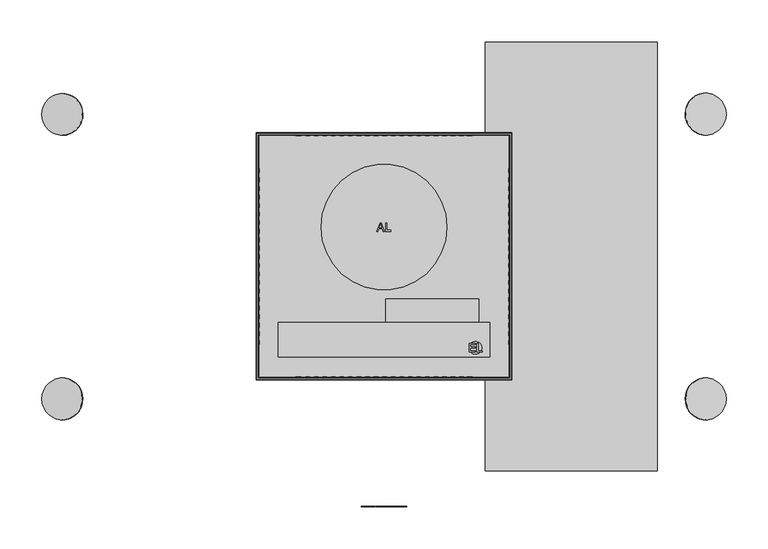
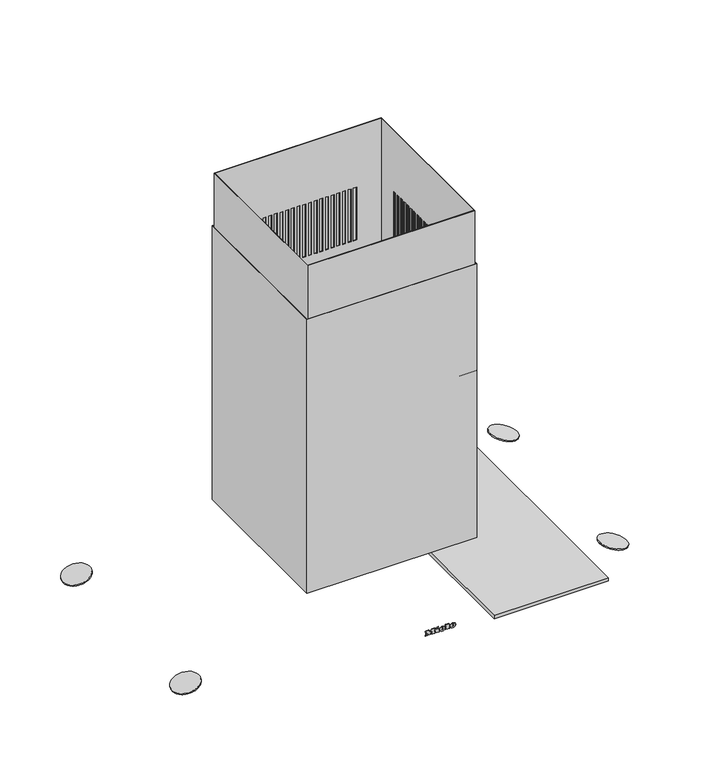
"""IFC4 building model written with IfcOpenShell, lengths in millimetres: proxy geometry, 10863370_RU_DA6698D_BRWS : 28669835_RU_10863370_DA6698D_BRWS."""

from ifc_helpers import new_model, si_unit, point, frame, frame_2d, origin, place, context, project, spatial, polyline, circle_curve, ellipse_curve, trimmed, segment, composite_curve, outline, extrude, faceted_brep, source, transform, mapped, element, save
from ifc_brep_helpers import plane_surface, cylinder_surface, revolved_surface, extruded_surface, advanced_brep


def specialty_equipment_2a2898d7(model_context):
    return source(origin(), model_context, "Body", "SolidModel", [
        advanced_brep(
        [(21.38, -299.0, 54.133), (21.38, -299.0, 55.042), (27.401, -299.0, 55.042), (16.925, -299.0, 55.042), (19.4, -299.0, 52.0), (27.248, -299.0, 54.133), (24.53, -299.0, 54.133), (22.388, -299.0, 53.125), (21.38, -299.0, 56.194), (21.38, -299.0, 57.175), (22.919, -299.0, 57.175), (22.919, -299.0, 56.194), (21.38, -298.0, 54.133), (22.388, -298.0, 53.125), (24.53, -298.0, 54.133), (27.248, -298.0, 54.133), (19.4, -298.0, 52.0), (16.925, -298.0, 55.042), (27.401, -298.0, 55.042), (21.38, -298.0, 55.042), (21.38, -298.0, 56.194), (22.919, -298.0, 56.194), (22.919, -298.0, 57.175), (21.38, -298.0, 57.175)],
        [
            (0, 1),
            (1, 2),
            (2, 3, ellipse_curve(frame((22.163, -299.0, 55.042), z_axis=(0.0, -1.0, 0.0), x_axis=(-1.0, 0.0, 0.0)), 5.238, 4.329)),
            (3, 4, circle_curve(frame((20.4080491, -299.0, 55.348), z_axis=(0.0, -1.0, 0.0), x_axis=(0.0, 0.0, -1.0)), 3.4964649)),
            (4, 5, circle_curve(frame((22.0581428, -299.0, 57.724), z_axis=(0.0, -1.0, 0.0), x_axis=(0.0, 0.0, -1.0)), 6.3110933)),
            (5, 6),
            (6, 7, circle_curve(frame((22.8279412, -299.0, 54.97), z_axis=(0.0, 1.0, 0.0), x_axis=(0.0, 0.0, -1.0)), 1.896727)),
            (7, 0, circle_curve(frame((22.388, -299.0, 54.133), z_axis=(0.0, 1.0, 0.0), x_axis=(0.0, 0.0, -1.0)), 1.008)),
            (8, 9),
            (9, 10, circle_curve(frame((22.1495, -299.0, 57.175), z_axis=(0.0, 1.0, 0.0), x_axis=(0.0, 0.0, -1.0)), 0.7695)),
            (10, 11),
            (11, 8),
            (12, 13, circle_curve(frame((22.388, -298.0, 54.133), z_axis=(0.0, -1.0, 0.0), x_axis=(0.0, 0.0, -1.0)), 1.008)),
            (13, 14, circle_curve(frame((22.8279412, -298.0, 54.97), z_axis=(0.0, -1.0, 0.0), x_axis=(0.0, 0.0, -1.0)), 1.896727)),
            (14, 15),
            (15, 16, circle_curve(frame((22.0581428, -298.0, 57.724), z_axis=(0.0, 1.0, 0.0), x_axis=(0.0, 0.0, -1.0)), 6.3110933)),
            (16, 17, circle_curve(frame((20.4080491, -298.0, 55.348), z_axis=(0.0, 1.0, 0.0), x_axis=(0.0, 0.0, -1.0)), 3.4964649)),
            (17, 18, ellipse_curve(frame((22.163, -298.0, 55.042), z_axis=(0.0, 1.0, 0.0), x_axis=(-1.0, 0.0, 0.0)), 5.238, 4.329)),
            (18, 19),
            (19, 12),
            (20, 21),
            (21, 22),
            (22, 23, circle_curve(frame((22.1495, -298.0, 57.175), z_axis=(0.0, -1.0, 0.0), x_axis=(0.0, 0.0, -1.0)), 0.7695)),
            (23, 20),
            (0, 12),
            (19, 1),
            (18, 2),
            (5, 15),
            (14, 6),
            (17, 3),
            (13, 7),
            (16, 4),
            (8, 20),
            (23, 9),
            (22, 10),
            (21, 11),
        ],
        [
            plane_surface(frame((21.38, -299.0, 55.042), z_axis=(0.0, -1.0, 0.0), x_axis=(0.0, 0.0, 1.0))),
            plane_surface(frame((21.38, -298.0, 55.042), z_axis=(0.0, 1.0, 0.0), x_axis=(0.0, 0.0, -1.0))),
            plane_surface(frame((21.38, -299.0, 54.133), z_axis=(1.0, 0.0, 0.0), x_axis=(0.0, 1.0, 0.0))),
            plane_surface(frame((21.38, -299.0, 55.042), z_axis=(0.0, 0.0, -1.0), x_axis=(0.0, 1.0, 0.0))),
            plane_surface(frame((27.248, -299.0, 54.133), z_axis=(0.0, 0.0, 1.0), x_axis=(0.0, 1.0, 0.0))),
            extruded_surface(trimmed(ellipse_curve(frame((22.163, -297.0, 55.042), z_axis=(0.0, -1.0, 0.0), x_axis=(-1.0, 0.0, 0.0)), 5.238, 4.329), [point((27.401, -297.0, 55.042))], [point((16.925, -297.0, 55.042))], True, "CARTESIAN"), (0.0, -1.0, 0.0), 1.0),
            revolved_surface(polyline([(22.8279412, -298.0, 53.073273), (22.8279412, -299.0, 53.073273)]), (22.8279412, -298.0, 54.97), (0.0, 1.0, 0.0)),
            revolved_surface(polyline([(22.388, -298.0, 53.125), (22.388, -299.0, 53.125)]), (22.388, -298.0, 54.133), (0.0, 1.0, 0.0)),
            cylinder_surface(frame((20.4080491, -298.0, 55.348), z_axis=(0.0, -1.0, 0.0), x_axis=(0.0, 0.0, -1.0)), 3.4964649),
            cylinder_surface(frame((22.0581428, -298.0, 57.724), z_axis=(0.0, -1.0, 0.0), x_axis=(0.0, 0.0, -1.0)), 6.3110933),
            plane_surface(frame((21.38, -299.0, 56.194), z_axis=(1.0, 0.0, 0.0), x_axis=(0.0, 1.0, 0.0))),
            revolved_surface(polyline([(22.1495, -298.0, 56.405499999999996), (22.1495, -299.0, 56.405499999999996)]), (22.1495, -298.0, 57.175), (0.0, 1.0, 0.0)),
            plane_surface(frame((22.919, -299.0, 57.175), z_axis=(-1.0, 0.0, 0.0), x_axis=(0.0, 1.0, 0.0))),
            plane_surface(frame((22.919, -299.0, 56.194), z_axis=(0.0, 0.0, 1.0), x_axis=(0.0, 1.0, 0.0))),
        ],
        [
            (0, [[1, 2, 3, 4, 5, 6, 7, 8], [9, 10, 11, 12]]),
            (1, [[13, 14, 15, 16, 17, 18, 19, 20], [21, 22, 23, 24]]),
            (2, [[-1, 25, -20, 26]]),
            (3, [[-2, -26, -19, 27]]),
            (4, [[-6, 28, -15, 29]]),
            (5, [[-3, -27, -18, 30]]),
            (6, [[-7, -29, -14, 31]]),
            (7, [[-8, -31, -13, -25]]),
            (8, [[-4, -30, -17, 32]]),
            (9, [[-5, -32, -16, -28]]),
            (10, [[-9, 33, -24, 34]]),
            (11, [[-10, -34, -23, 35]]),
            (12, [[-11, -35, -22, 36]]),
            (13, [[-12, -36, -21, -33]]),
        ],
    ),
        advanced_brep(
        [(2.597, -299.0, 54.133), (2.597, -299.0, 55.042), (8.618, -299.0, 55.042), (-1.858, -299.0, 55.042), (0.617, -299.0, 52.0), (8.465, -299.0, 54.133), (5.747, -299.0, 54.133), (3.605, -299.0, 53.125), (2.597, -299.0, 56.194), (2.597, -299.0, 57.175), (4.136, -299.0, 57.175), (4.136, -299.0, 56.194), (2.597, -298.0, 54.133), (3.605, -298.0, 53.125), (5.747, -298.0, 54.133), (8.465, -298.0, 54.133), (0.617, -298.0, 52.0), (-1.858, -298.0, 55.042), (8.618, -298.0, 55.042), (2.597, -298.0, 55.042), (2.597, -298.0, 56.194), (4.136, -298.0, 56.194), (4.136, -298.0, 57.175), (2.597, -298.0, 57.175)],
        [
            (0, 1),
            (1, 2),
            (2, 3, ellipse_curve(frame((3.38, -299.0, 55.042), z_axis=(0.0, -1.0, 0.0), x_axis=(-1.0, 0.0, 0.0)), 5.238, 4.329)),
            (3, 4, circle_curve(frame((1.6250491, -299.0, 55.348), z_axis=(0.0, -1.0, 0.0), x_axis=(0.0, 0.0, -1.0)), 3.4964649)),
            (4, 5, circle_curve(frame((3.2751428, -299.0, 57.724), z_axis=(0.0, -1.0, 0.0), x_axis=(0.0, 0.0, -1.0)), 6.3110933)),
            (5, 6),
            (6, 7, circle_curve(frame((4.0449412, -299.0, 54.97), z_axis=(0.0, 1.0, 0.0), x_axis=(0.0, 0.0, -1.0)), 1.896727)),
            (7, 0, circle_curve(frame((3.605, -299.0, 54.133), z_axis=(0.0, 1.0, 0.0), x_axis=(0.0, 0.0, -1.0)), 1.008)),
            (8, 9),
            (9, 10, circle_curve(frame((3.3665, -299.0, 57.175), z_axis=(0.0, 1.0, 0.0), x_axis=(0.0, 0.0, -1.0)), 0.7695)),
            (10, 11),
            (11, 8),
            (12, 13, circle_curve(frame((3.605, -298.0, 54.133), z_axis=(0.0, -1.0, 0.0), x_axis=(0.0, 0.0, -1.0)), 1.008)),
            (13, 14, circle_curve(frame((4.0449412, -298.0, 54.97), z_axis=(0.0, -1.0, 0.0), x_axis=(0.0, 0.0, -1.0)), 1.896727)),
            (14, 15),
            (15, 16, circle_curve(frame((3.2751428, -298.0, 57.724), z_axis=(0.0, 1.0, 0.0), x_axis=(0.0, 0.0, -1.0)), 6.3110933)),
            (16, 17, circle_curve(frame((1.6250491, -298.0, 55.348), z_axis=(0.0, 1.0, 0.0), x_axis=(0.0, 0.0, -1.0)), 3.4964649)),
            (17, 18, ellipse_curve(frame((3.38, -298.0, 55.042), z_axis=(0.0, 1.0, 0.0), x_axis=(-1.0, 0.0, 0.0)), 5.238, 4.329)),
            (18, 19),
            (19, 12),
            (20, 21),
            (21, 22),
            (22, 23, circle_curve(frame((3.3665, -298.0, 57.175), z_axis=(0.0, -1.0, 0.0), x_axis=(0.0, 0.0, -1.0)), 0.7695)),
            (23, 20),
            (0, 12),
            (19, 1),
            (18, 2),
            (5, 15),
            (14, 6),
            (17, 3),
            (13, 7),
            (16, 4),
            (8, 20),
            (23, 9),
            (22, 10),
            (21, 11),
        ],
        [
            plane_surface(frame((2.597, -299.0, 55.042), z_axis=(0.0, -1.0, 0.0), x_axis=(0.0, 0.0, 1.0))),
            plane_surface(frame((2.597, -298.0, 55.042), z_axis=(0.0, 1.0, 0.0), x_axis=(0.0, 0.0, -1.0))),
            plane_surface(frame((2.597, -299.0, 54.133), z_axis=(1.0, 0.0, 0.0), x_axis=(0.0, 1.0, 0.0))),
            plane_surface(frame((2.597, -299.0, 55.042), z_axis=(0.0, 0.0, -1.0), x_axis=(0.0, 1.0, 0.0))),
            plane_surface(frame((8.465, -299.0, 54.133), z_axis=(0.0, 0.0, 1.0), x_axis=(0.0, 1.0, 0.0))),
            extruded_surface(trimmed(ellipse_curve(frame((3.38, -297.0, 55.042), z_axis=(0.0, -1.0, 0.0), x_axis=(-1.0, 0.0, 0.0)), 5.238, 4.329), [point((8.618, -297.0, 55.042))], [point((-1.858, -297.0, 55.042))], True, "CARTESIAN"), (0.0, -1.0, 0.0), 1.0),
            revolved_surface(polyline([(4.0449412, -298.0, 53.073273), (4.0449412, -299.0, 53.073273)]), (4.0449412, -298.0, 54.97), (0.0, 1.0, 0.0)),
            revolved_surface(polyline([(3.605, -298.0, 53.125), (3.605, -299.0, 53.125)]), (3.605, -298.0, 54.133), (0.0, 1.0, 0.0)),
            cylinder_surface(frame((1.6250491, -298.0, 55.348), z_axis=(0.0, -1.0, 0.0), x_axis=(0.0, 0.0, -1.0)), 3.4964649),
            cylinder_surface(frame((3.2751428, -298.0, 57.724), z_axis=(0.0, -1.0, 0.0), x_axis=(0.0, 0.0, -1.0)), 6.3110933),
            plane_surface(frame((2.597, -299.0, 56.194), z_axis=(1.0, 0.0, 0.0), x_axis=(0.0, 1.0, 0.0))),
            revolved_surface(polyline([(3.3665, -298.0, 56.405499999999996), (3.3665, -299.0, 56.405499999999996)]), (3.3665, -298.0, 57.175), (0.0, 1.0, 0.0)),
            plane_surface(frame((4.136, -299.0, 57.175), z_axis=(-1.0, 0.0, 0.0), x_axis=(0.0, 1.0, 0.0))),
            plane_surface(frame((4.136, -299.0, 56.194), z_axis=(0.0, 0.0, 1.0), x_axis=(0.0, 1.0, 0.0))),
        ],
        [
            (0, [[1, 2, 3, 4, 5, 6, 7, 8], [9, 10, 11, 12]]),
            (1, [[13, 14, 15, 16, 17, 18, 19, 20], [21, 22, 23, 24]]),
            (2, [[-1, 25, -20, 26]]),
            (3, [[-2, -26, -19, 27]]),
            (4, [[-6, 28, -15, 29]]),
            (5, [[-3, -27, -18, 30]]),
            (6, [[-7, -29, -14, 31]]),
            (7, [[-8, -31, -13, -25]]),
            (8, [[-4, -30, -17, 32]]),
            (9, [[-5, -32, -16, -28]]),
            (10, [[-9, 33, -24, 34]]),
            (11, [[-10, -34, -23, 35]]),
            (12, [[-11, -35, -22, 36]]),
            (13, [[-12, -36, -21, -33]]),
        ],
    ),
        extrude(outline(polyline([(60.469, -7.24), (59.011, -6.556), (60.433, -3.505), (61.891, -4.18), (60.469, -7.24)])), frame((0.0, -299.0, 0.0), z_axis=(0.0, 1.0, 0.0), x_axis=(0.0, 0.0, 1.0)), (0.0, 0.0, 1.0), 1.0),
        extrude(outline(polyline([(58.813, -9.463), (57.202, -9.463), (57.202, -8.392), (53.512, -8.392), (53.512, -9.463), (52.0, -9.463), (52.0, -2.362), (53.512, -2.362), (53.512, -3.406), (58.813, -3.406), (58.813, -9.463)])), frame((0.0, -299.0, 0.0), z_axis=(0.0, 1.0, 0.0), x_axis=(0.0, 0.0, 1.0)), (0.0, 0.0, 1.0), 1.0),
        extrude(outline(polyline([(59.533, 9.122), (59.533, 10.202), (53.512, 10.202), (53.512, 9.122), (52.0, 9.122), (52.0, 16.421), (53.512, 16.421), (53.512, 15.314), (61.0, 15.314), (61.0, 9.122), (59.533, 9.122)])), frame((0.0, -299.0, 0.0), z_axis=(0.0, 1.0, 0.0), x_axis=(0.0, 0.0, 1.0)), (0.0, 0.0, 1.0), 1.0),
        extrude(outline(polyline([(59.533, -27.4), (59.533, -26.311), (53.512, -26.311), (53.512, -27.4), (52.0, -27.4), (52.0, -23.44), (53.512, -23.44), (53.512, -24.52), (57.3341247, -24.52), (52.0, -20.497), (57.4402223, -16.456), (53.512, -16.456), (53.512, -17.563), (52.0, -17.563), (52.0, -10.381), (53.512, -10.381), (53.512, -11.524), (59.533, -11.524), (59.533, -10.381), (61.0, -10.381), (61.0, -15.862), (57.625, -18.49), (61.0, -21.127), (61.0, -27.4), (59.533, -27.4)])), frame((0.0, -299.0, 0.0), z_axis=(0.0, 1.0, 0.0), x_axis=(0.0, 0.0, 1.0)), (0.0, 0.0, 1.0), 1.0),
        extrude(outline(polyline([(113.0, -51.0), (113.0, -79.0), (2.0, -79.0), (2.0, -51.0), (113.0, -51.0)])), frame((0.0, 0.0, 416.0), z_axis=(0.0, 0.0, 1.0), x_axis=(1.0, 0.0, 0.0)), (0.0, 0.0, 1.0), 38.0),
        extrude(outline(polyline([(126.0, -79.0), (126.0, -120.0), (-126.0, -120.0), (-126.0, -79.0), (126.0, -79.0)])), frame((0.0, 0.0, 402.0), z_axis=(0.0, 0.0, 1.0), x_axis=(1.0, 0.0, 0.0)), (0.0, 0.0, 1.0), 121.0),
        faceted_brep([(-150.0, -145.0, 705.0), (150.0, -145.0, 705.0), (150.0, 145.0, 705.0), (-150.0, 145.0, 705.0), (-149.0, -144.0, 705.0), (-149.0, 144.0, 705.0), (149.0, 144.0, 705.0), (149.0, -144.0, 705.0), (-150.0, -145.0, 445.0), (-150.0, 145.0, 445.0), (150.0, 145.0, 445.0), (150.0, -145.0, 445.0), (-149.0, -144.0, 445.0), (149.0, -144.0, 445.0), (149.0, 144.0, 445.0), (-149.0, 144.0, 445.0), (-105.0, -145.0, 590.0), (-98.8, -145.0, 590.0), (-98.8, -145.0, 490.0), (-105.0, -145.0, 490.0), (98.8, -145.0, 590.0), (105.0, -145.0, 590.0), (105.0, -145.0, 490.0), (98.8, -145.0, 490.0), (-93.6, -145.0, 590.0), (-88.6, -145.0, 590.0), (-88.6, -145.0, 490.0), (-93.6, -145.0, 490.0), (-83.4, -145.0, 590.0), (-78.4, -145.0, 590.0), (-78.4, -145.0, 490.0), (-83.4, -145.0, 490.0), (-73.2, -145.0, 590.0), (-68.2, -145.0, 590.0), (-68.2, -145.0, 490.0), (-73.2, -145.0, 490.0), (-63.0, -145.0, 590.0), (-58.0, -145.0, 590.0), (-58.0, -145.0, 490.0), (-63.0, -145.0, 490.0), (-52.8, -145.0, 590.0), (-47.8, -145.0, 590.0), (-47.8, -145.0, 490.0), (-52.8, -145.0, 490.0), (-42.6, -145.0, 590.0), (-37.6, -145.0, 590.0), (-37.6, -145.0, 490.0), (-42.6, -145.0, 490.0), (-32.4, -145.0, 590.0), (-27.4, -145.0, 590.0), (-27.4, -145.0, 490.0), (-32.4, -145.0, 490.0), (-22.2, -145.0, 590.0), (-17.2, -145.0, 590.0), (-17.2, -145.0, 490.0), (-22.2, -145.0, 490.0), (-12.0, -145.0, 590.0), (-7.0, -145.0, 590.0), (-7.0, -145.0, 490.0), (-12.0, -145.0, 490.0), (-1.8, -145.0, 590.0), (3.2, -145.0, 590.0), (3.2, -145.0, 490.0), (-1.8, -145.0, 490.0), (8.4, -145.0, 590.0), (13.4, -145.0, 590.0), (13.4, -145.0, 490.0), (8.4, -145.0, 490.0), (18.6, -145.0, 590.0), (23.6, -145.0, 590.0), (23.6, -145.0, 490.0), (18.6, -145.0, 490.0), (28.8, -145.0, 590.0), (33.8, -145.0, 590.0), (33.8, -145.0, 490.0), (28.8, -145.0, 490.0), (39.0, -145.0, 590.0), (44.0, -145.0, 590.0), (44.0, -145.0, 490.0), (39.0, -145.0, 490.0), (49.2, -145.0, 590.0), (54.2, -145.0, 590.0), (54.2, -145.0, 490.0), (49.2, -145.0, 490.0), (59.4, -145.0, 590.0), (64.4, -145.0, 590.0), (64.4, -145.0, 490.0), (59.4, -145.0, 490.0), (69.6, -145.0, 590.0), (74.6, -145.0, 590.0), (74.6, -145.0, 490.0), (69.6, -145.0, 490.0), (79.8, -145.0, 590.0), (84.8, -145.0, 590.0), (84.8, -145.0, 490.0), (79.8, -145.0, 490.0), (90.0, -145.0, 590.0), (95.0, -145.0, 590.0), (95.0, -145.0, 490.0), (90.0, -145.0, 490.0), (150.0, -105.0, 590.0), (150.0, -100.0, 590.0), (150.0, -100.0, 490.0), (150.0, -105.0, 490.0), (150.0, -94.8, 590.0), (150.0, -89.8, 590.0), (150.0, -89.8, 490.0), (150.0, -94.8, 490.0), (150.0, -84.6, 590.0), (150.0, -79.6, 590.0), (150.0, -79.6, 490.0), (150.0, -84.6, 490.0), (150.0, -74.4, 590.0), (150.0, -69.4, 590.0), (150.0, -69.4, 490.0), (150.0, -74.4, 490.0), (150.0, -64.2, 590.0), (150.0, -59.2, 590.0), (150.0, -59.2, 490.0), (150.0, -64.2, 490.0), (150.0, -54.0, 590.0), (150.0, -49.0, 590.0), (150.0, -49.0, 490.0), (150.0, -54.0, 490.0), (150.0, -43.8, 590.0), (150.0, -38.8, 590.0), (150.0, -38.8, 490.0), (150.0, -43.8, 490.0), (150.0, -33.6, 590.0), (150.0, -28.6, 590.0), (150.0, -28.6, 490.0), (150.0, -33.6, 490.0), (150.0, -23.4, 590.0), (150.0, -18.4, 590.0), (150.0, -18.4, 490.0), (150.0, -23.4, 490.0), (150.0, -13.2, 590.0), (150.0, -8.2, 590.0), (150.0, -8.2, 490.0), (150.0, -13.2, 490.0), (150.0, -3.0, 590.0), (150.0, 2.0, 590.0), (150.0, 2.0, 490.0), (150.0, -3.0, 490.0), (150.0, 7.2, 590.0), (150.0, 12.2, 590.0), (150.0, 12.2, 490.0), (150.0, 7.2, 490.0), (150.0, 17.4, 590.0), (150.0, 22.4, 590.0), (150.0, 22.4, 490.0), (150.0, 17.4, 490.0), (150.0, 27.6, 590.0), (150.0, 32.6, 590.0), (150.0, 32.6, 490.0), (150.0, 27.6, 490.0), (150.0, 37.8, 590.0), (150.0, 42.8, 590.0), (150.0, 42.8, 490.0), (150.0, 37.8, 490.0), (150.0, 48.0, 590.0), (150.0, 53.0, 590.0), (150.0, 53.0, 490.0), (150.0, 48.0, 490.0), (150.0, 58.2, 590.0), (150.0, 63.2, 590.0), (150.0, 63.2, 490.0), (150.0, 58.2, 490.0), (150.0, 68.4, 590.0), (150.0, 73.4, 590.0), (150.0, 73.4, 490.0), (150.0, 68.4, 490.0), (150.0, 100.0, 590.0), (150.0, 105.0, 590.0), (150.0, 105.0, 490.0), (150.0, 100.0, 490.0), (150.0, 78.6, 590.0), (150.0, 83.6, 590.0), (150.0, 83.6, 490.0), (150.0, 78.6, 490.0), (150.0, 88.8, 590.0), (150.0, 93.8, 590.0), (150.0, 93.8, 490.0), (150.0, 88.8, 490.0), (-98.8, 145.0, 590.0), (-105.0, 145.0, 590.0), (-105.0, 145.0, 490.0), (-98.8, 145.0, 490.0), (105.0, 145.0, 590.0), (98.8, 145.0, 590.0), (98.8, 145.0, 490.0), (105.0, 145.0, 490.0), (-88.6, 145.0, 590.0), (-93.6, 145.0, 590.0), (-93.6, 145.0, 490.0), (-88.6, 145.0, 490.0), (-78.4, 145.0, 590.0), (-83.4, 145.0, 590.0), (-83.4, 145.0, 490.0), (-78.4, 145.0, 490.0), (-68.2, 145.0, 590.0), (-73.2, 145.0, 590.0), (-73.2, 145.0, 490.0), (-68.2, 145.0, 490.0), (-58.0, 145.0, 590.0), (-63.0, 145.0, 590.0), (-63.0, 145.0, 490.0), (-58.0, 145.0, 490.0), (-47.8, 145.0, 590.0), (-52.8, 145.0, 590.0), (-52.8, 145.0, 490.0), (-47.8, 145.0, 490.0), (-37.6, 145.0, 590.0), (-42.6, 145.0, 590.0), (-42.6, 145.0, 490.0), (-37.6, 145.0, 490.0), (-27.4, 145.0, 590.0), (-32.4, 145.0, 590.0), (-32.4, 145.0, 490.0), (-27.4, 145.0, 490.0), (-17.2, 145.0, 590.0), (-22.2, 145.0, 590.0), (-22.2, 145.0, 490.0), (-17.2, 145.0, 490.0), (-7.0, 145.0, 590.0), (-12.0, 145.0, 590.0), (-12.0, 145.0, 490.0), (-7.0, 145.0, 490.0), (3.2, 145.0, 590.0), (-1.8, 145.0, 590.0), (-1.8, 145.0, 490.0), (3.2, 145.0, 490.0), (13.4, 145.0, 590.0), (8.4, 145.0, 590.0), (8.4, 145.0, 490.0), (13.4, 145.0, 490.0), (23.6, 145.0, 590.0), (18.6, 145.0, 590.0), (18.6, 145.0, 490.0), (23.6, 145.0, 490.0), (33.8, 145.0, 590.0), (28.8, 145.0, 590.0), (28.8, 145.0, 490.0), (33.8, 145.0, 490.0), (44.0, 145.0, 590.0), (39.0, 145.0, 590.0), (39.0, 145.0, 490.0), (44.0, 145.0, 490.0), (54.2, 145.0, 590.0), (49.2, 145.0, 590.0), (49.2, 145.0, 490.0), (54.2, 145.0, 490.0), (64.4, 145.0, 590.0), (59.4, 145.0, 590.0), (59.4, 145.0, 490.0), (64.4, 145.0, 490.0), (74.6, 145.0, 590.0), (69.6, 145.0, 590.0), (69.6, 145.0, 490.0), (74.6, 145.0, 490.0), (84.8, 145.0, 590.0), (79.8, 145.0, 590.0), (79.8, 145.0, 490.0), (84.8, 145.0, 490.0), (95.0, 145.0, 590.0), (90.0, 145.0, 590.0), (90.0, 145.0, 490.0), (95.0, 145.0, 490.0), (-150.0, -100.0, 590.0), (-150.0, -105.0, 590.0), (-150.0, -105.0, 490.0), (-150.0, -100.0, 490.0), (-150.0, -89.8, 590.0), (-150.0, -94.8, 590.0), (-150.0, -94.8, 490.0), (-150.0, -89.8, 490.0), (-150.0, -79.6, 590.0), (-150.0, -84.6, 590.0), (-150.0, -84.6, 490.0), (-150.0, -79.6, 490.0), (-150.0, -69.4, 590.0), (-150.0, -74.4, 590.0), (-150.0, -74.4, 490.0), (-150.0, -69.4, 490.0), (-150.0, -59.2, 590.0), (-150.0, -64.2, 590.0), (-150.0, -64.2, 490.0), (-150.0, -59.2, 490.0), (-150.0, -49.0, 590.0), (-150.0, -54.0, 590.0), (-150.0, -54.0, 490.0), (-150.0, -49.0, 490.0), (-150.0, -38.8, 590.0), (-150.0, -43.8, 590.0), (-150.0, -43.8, 490.0), (-150.0, -38.8, 490.0), (-150.0, -28.6, 590.0), (-150.0, -33.6, 590.0), (-150.0, -33.6, 490.0), (-150.0, -28.6, 490.0), (-150.0, -18.4, 590.0), (-150.0, -23.4, 590.0), (-150.0, -23.4, 490.0), (-150.0, -18.4, 490.0), (-150.0, -8.2, 590.0), (-150.0, -13.2, 590.0), (-150.0, -13.2, 490.0), (-150.0, -8.2, 490.0), (-150.0, 2.0, 590.0), (-150.0, -3.0, 590.0), (-150.0, -3.0, 490.0), (-150.0, 2.0, 490.0), (-150.0, 12.2, 590.0), (-150.0, 7.2, 590.0), (-150.0, 7.2, 490.0), (-150.0, 12.2, 490.0), (-150.0, 22.4, 590.0), (-150.0, 17.4, 590.0), (-150.0, 17.4, 490.0), (-150.0, 22.4, 490.0), (-150.0, 32.6, 590.0), (-150.0, 27.6, 590.0), (-150.0, 27.6, 490.0), (-150.0, 32.6, 490.0), (-150.0, 42.8, 590.0), (-150.0, 37.8, 590.0), (-150.0, 37.8, 490.0), (-150.0, 42.8, 490.0), (-150.0, 53.0, 590.0), (-150.0, 48.0, 590.0), (-150.0, 48.0, 490.0), (-150.0, 53.0, 490.0), (-150.0, 63.2, 590.0), (-150.0, 58.2, 590.0), (-150.0, 58.2, 490.0), (-150.0, 63.2, 490.0), (-150.0, 73.4, 590.0), (-150.0, 68.4, 590.0), (-150.0, 68.4, 490.0), (-150.0, 73.4, 490.0), (-150.0, 105.0, 590.0), (-150.0, 100.0, 590.0), (-150.0, 100.0, 490.0), (-150.0, 105.0, 490.0), (-150.0, 83.6, 590.0), (-150.0, 78.6, 590.0), (-150.0, 78.6, 490.0), (-150.0, 83.6, 490.0), (-150.0, 93.8, 590.0), (-150.0, 88.8, 590.0), (-150.0, 88.8, 490.0), (-150.0, 93.8, 490.0), (-149.0, -105.0, 590.0), (-149.0, -100.0, 590.0), (-149.0, -100.0, 490.0), (-149.0, -105.0, 490.0), (-149.0, -94.8, 590.0), (-149.0, -89.8, 590.0), (-149.0, -89.8, 490.0), (-149.0, -94.8, 490.0), (-149.0, -84.6, 590.0), (-149.0, -79.6, 590.0), (-149.0, -79.6, 490.0), (-149.0, -84.6, 490.0), (-149.0, -74.4, 590.0), (-149.0, -69.4, 590.0), (-149.0, -69.4, 490.0), (-149.0, -74.4, 490.0), (-149.0, -64.2, 590.0), (-149.0, -59.2, 590.0), (-149.0, -59.2, 490.0), (-149.0, -64.2, 490.0), (-149.0, -54.0, 590.0), (-149.0, -49.0, 590.0), (-149.0, -49.0, 490.0), (-149.0, -54.0, 490.0), (-149.0, -43.8, 590.0), (-149.0, -38.8, 590.0), (-149.0, -38.8, 490.0), (-149.0, -43.8, 490.0), (-149.0, -33.6, 590.0), (-149.0, -28.6, 590.0), (-149.0, -28.6, 490.0), (-149.0, -33.6, 490.0), (-149.0, -23.4, 590.0), (-149.0, -18.4, 590.0), (-149.0, -18.4, 490.0), (-149.0, -23.4, 490.0), (-149.0, -13.2, 590.0), (-149.0, -8.2, 590.0), (-149.0, -8.2, 490.0), (-149.0, -13.2, 490.0), (-149.0, -3.0, 590.0), (-149.0, 2.0, 590.0), (-149.0, 2.0, 490.0), (-149.0, -3.0, 490.0), (-149.0, 7.2, 590.0), (-149.0, 12.2, 590.0), (-149.0, 12.2, 490.0), (-149.0, 7.2, 490.0), (-149.0, 17.4, 590.0), (-149.0, 22.4, 590.0), (-149.0, 22.4, 490.0), (-149.0, 17.4, 490.0), (-149.0, 27.6, 590.0), (-149.0, 32.6, 590.0), (-149.0, 32.6, 490.0), (-149.0, 27.6, 490.0), (-149.0, 37.8, 590.0), (-149.0, 42.8, 590.0), (-149.0, 42.8, 490.0), (-149.0, 37.8, 490.0), (-149.0, 48.0, 590.0), (-149.0, 53.0, 590.0), (-149.0, 53.0, 490.0), (-149.0, 48.0, 490.0), (-149.0, 58.2, 590.0), (-149.0, 63.2, 590.0), (-149.0, 63.2, 490.0), (-149.0, 58.2, 490.0), (-149.0, 68.4, 590.0), (-149.0, 73.4, 590.0), (-149.0, 73.4, 490.0), (-149.0, 68.4, 490.0), (-149.0, 100.0, 590.0), (-149.0, 105.0, 590.0), (-149.0, 105.0, 490.0), (-149.0, 100.0, 490.0), (-149.0, 78.6, 590.0), (-149.0, 83.6, 590.0), (-149.0, 83.6, 490.0), (-149.0, 78.6, 490.0), (-149.0, 88.8, 590.0), (-149.0, 93.8, 590.0), (-149.0, 93.8, 490.0), (-149.0, 88.8, 490.0), (-105.0, 144.0, 590.0), (-98.8, 144.0, 590.0), (-98.8, 144.0, 490.0), (-105.0, 144.0, 490.0), (98.8, 144.0, 590.0), (105.0, 144.0, 590.0), (105.0, 144.0, 490.0), (98.8, 144.0, 490.0), (-93.6, 144.0, 590.0), (-88.6, 144.0, 590.0), (-88.6, 144.0, 490.0), (-93.6, 144.0, 490.0), (-83.4, 144.0, 590.0), (-78.4, 144.0, 590.0), (-78.4, 144.0, 490.0), (-83.4, 144.0, 490.0), (-73.2, 144.0, 590.0), (-68.2, 144.0, 590.0), (-68.2, 144.0, 490.0), (-73.2, 144.0, 490.0), (-63.0, 144.0, 590.0), (-58.0, 144.0, 590.0), (-58.0, 144.0, 490.0), (-63.0, 144.0, 490.0), (-52.8, 144.0, 590.0), (-47.8, 144.0, 590.0), (-47.8, 144.0, 490.0), (-52.8, 144.0, 490.0), (-42.6, 144.0, 590.0), (-37.6, 144.0, 590.0), (-37.6, 144.0, 490.0), (-42.6, 144.0, 490.0), (-32.4, 144.0, 590.0), (-27.4, 144.0, 590.0), (-27.4, 144.0, 490.0), (-32.4, 144.0, 490.0), (-22.2, 144.0, 590.0), (-17.2, 144.0, 590.0), (-17.2, 144.0, 490.0), (-22.2, 144.0, 490.0), (-12.0, 144.0, 590.0), (-7.0, 144.0, 590.0), (-7.0, 144.0, 490.0), (-12.0, 144.0, 490.0), (-1.8, 144.0, 590.0), (3.2, 144.0, 590.0), (3.2, 144.0, 490.0), (-1.8, 144.0, 490.0), (8.4, 144.0, 590.0), (13.4, 144.0, 590.0), (13.4, 144.0, 490.0), (8.4, 144.0, 490.0), (18.6, 144.0, 590.0), (23.6, 144.0, 590.0), (23.6, 144.0, 490.0), (18.6, 144.0, 490.0), (28.8, 144.0, 590.0), (33.8, 144.0, 590.0), (33.8, 144.0, 490.0), (28.8, 144.0, 490.0), (39.0, 144.0, 590.0), (44.0, 144.0, 590.0), (44.0, 144.0, 490.0), (39.0, 144.0, 490.0), (49.2, 144.0, 590.0), (54.2, 144.0, 590.0), (54.2, 144.0, 490.0), (49.2, 144.0, 490.0), (59.4, 144.0, 590.0), (64.4, 144.0, 590.0), (64.4, 144.0, 490.0), (59.4, 144.0, 490.0), (69.6, 144.0, 590.0), (74.6, 144.0, 590.0), (74.6, 144.0, 490.0), (69.6, 144.0, 490.0), (79.8, 144.0, 590.0), (84.8, 144.0, 590.0), (84.8, 144.0, 490.0), (79.8, 144.0, 490.0), (90.0, 144.0, 590.0), (95.0, 144.0, 590.0), (95.0, 144.0, 490.0), (90.0, 144.0, 490.0), (149.0, -100.0, 590.0), (149.0, -105.0, 590.0), (149.0, -105.0, 490.0), (149.0, -100.0, 490.0), (149.0, -89.8, 590.0), (149.0, -94.8, 590.0), (149.0, -94.8, 490.0), (149.0, -89.8, 490.0), (149.0, -79.6, 590.0), (149.0, -84.6, 590.0), (149.0, -84.6, 490.0), (149.0, -79.6, 490.0), (149.0, -69.4, 590.0), (149.0, -74.4, 590.0), (149.0, -74.4, 490.0), (149.0, -69.4, 490.0), (149.0, -59.2, 590.0), (149.0, -64.2, 590.0), (149.0, -64.2, 490.0), (149.0, -59.2, 490.0), (149.0, -49.0, 590.0), (149.0, -54.0, 590.0), (149.0, -54.0, 490.0), (149.0, -49.0, 490.0), (149.0, -38.8, 590.0), (149.0, -43.8, 590.0), (149.0, -43.8, 490.0), (149.0, -38.8, 490.0), (149.0, -28.6, 590.0), (149.0, -33.6, 590.0), (149.0, -33.6, 490.0), (149.0, -28.6, 490.0), (149.0, -18.4, 590.0), (149.0, -23.4, 590.0), (149.0, -23.4, 490.0), (149.0, -18.4, 490.0), (149.0, -8.2, 590.0), (149.0, -13.2, 590.0), (149.0, -13.2, 490.0), (149.0, -8.2, 490.0), (149.0, 2.0, 590.0), (149.0, -3.0, 590.0), (149.0, -3.0, 490.0), (149.0, 2.0, 490.0), (149.0, 12.2, 590.0), (149.0, 7.2, 590.0), (149.0, 7.2, 490.0), (149.0, 12.2, 490.0), (149.0, 22.4, 590.0), (149.0, 17.4, 590.0), (149.0, 17.4, 490.0), (149.0, 22.4, 490.0), (149.0, 32.6, 590.0), (149.0, 27.6, 590.0), (149.0, 27.6, 490.0), (149.0, 32.6, 490.0), (149.0, 42.8, 590.0), (149.0, 37.8, 590.0), (149.0, 37.8, 490.0), (149.0, 42.8, 490.0), (149.0, 53.0, 590.0), (149.0, 48.0, 590.0), (149.0, 48.0, 490.0), (149.0, 53.0, 490.0), (149.0, 63.2, 590.0), (149.0, 58.2, 590.0), (149.0, 58.2, 490.0), (149.0, 63.2, 490.0), (149.0, 73.4, 590.0), (149.0, 68.4, 590.0), (149.0, 68.4, 490.0), (149.0, 73.4, 490.0), (149.0, 105.0, 590.0), (149.0, 100.0, 590.0), (149.0, 100.0, 490.0), (149.0, 105.0, 490.0), (149.0, 83.6, 590.0), (149.0, 78.6, 590.0), (149.0, 78.6, 490.0), (149.0, 83.6, 490.0), (149.0, 93.8, 590.0), (149.0, 88.8, 590.0), (149.0, 88.8, 490.0), (149.0, 93.8, 490.0), (-98.8, -144.0, 590.0), (-105.0, -144.0, 590.0), (-105.0, -144.0, 490.0), (-98.8, -144.0, 490.0), (105.0, -144.0, 590.0), (98.8, -144.0, 590.0), (98.8, -144.0, 490.0), (105.0, -144.0, 490.0), (-88.6, -144.0, 590.0), (-93.6, -144.0, 590.0), (-93.6, -144.0, 490.0), (-88.6, -144.0, 490.0), (-78.4, -144.0, 590.0), (-83.4, -144.0, 590.0), (-83.4, -144.0, 490.0), (-78.4, -144.0, 490.0), (-68.2, -144.0, 590.0), (-73.2, -144.0, 590.0), (-73.2, -144.0, 490.0), (-68.2, -144.0, 490.0), (-58.0, -144.0, 590.0), (-63.0, -144.0, 590.0), (-63.0, -144.0, 490.0), (-58.0, -144.0, 490.0), (-47.8, -144.0, 590.0), (-52.8, -144.0, 590.0), (-52.8, -144.0, 490.0), (-47.8, -144.0, 490.0), (-37.6, -144.0, 590.0), (-42.6, -144.0, 590.0), (-42.6, -144.0, 490.0), (-37.6, -144.0, 490.0), (-27.4, -144.0, 590.0), (-32.4, -144.0, 590.0), (-32.4, -144.0, 490.0), (-27.4, -144.0, 490.0), (-17.2, -144.0, 590.0), (-22.2, -144.0, 590.0), (-22.2, -144.0, 490.0), (-17.2, -144.0, 490.0), (-7.0, -144.0, 590.0), (-12.0, -144.0, 590.0), (-12.0, -144.0, 490.0), (-7.0, -144.0, 490.0), (3.2, -144.0, 590.0), (-1.8, -144.0, 590.0), (-1.8, -144.0, 490.0), (3.2, -144.0, 490.0), (13.4, -144.0, 590.0), (8.4, -144.0, 590.0), (8.4, -144.0, 490.0), (13.4, -144.0, 490.0), (23.6, -144.0, 590.0), (18.6, -144.0, 590.0), (18.6, -144.0, 490.0), (23.6, -144.0, 490.0), (33.8, -144.0, 590.0), (28.8, -144.0, 590.0), (28.8, -144.0, 490.0), (33.8, -144.0, 490.0), (44.0, -144.0, 590.0), (39.0, -144.0, 590.0), (39.0, -144.0, 490.0), (44.0, -144.0, 490.0), (54.2, -144.0, 590.0), (49.2, -144.0, 590.0), (49.2, -144.0, 490.0), (54.2, -144.0, 490.0), (64.4, -144.0, 590.0), (59.4, -144.0, 590.0), (59.4, -144.0, 490.0), (64.4, -144.0, 490.0), (74.6, -144.0, 590.0), (69.6, -144.0, 590.0), (69.6, -144.0, 490.0), (74.6, -144.0, 490.0), (84.8, -144.0, 590.0), (79.8, -144.0, 590.0), (79.8, -144.0, 490.0), (84.8, -144.0, 490.0), (95.0, -144.0, 590.0), (90.0, -144.0, 590.0), (90.0, -144.0, 490.0), (95.0, -144.0, 490.0)], [[[0, 1, 2, 3], [4, 5, 6, 7]], [[8, 9, 10, 11], [12, 13, 14, 15]], [[1, 0, 8, 11], [16, 17, 18, 19], [20, 21, 22, 23], [24, 25, 26, 27], [28, 29, 30, 31], [32, 33, 34, 35], [36, 37, 38, 39], [40, 41, 42, 43], [44, 45, 46, 47], [48, 49, 50, 51], [52, 53, 54, 55], [56, 57, 58, 59], [60, 61, 62, 63], [64, 65, 66, 67], [68, 69, 70, 71], [72, 73, 74, 75], [76, 77, 78, 79], [80, 81, 82, 83], [84, 85, 86, 87], [88, 89, 90, 91], [92, 93, 94, 95], [96, 97, 98, 99]], [[2, 1, 11, 10], [100, 101, 102, 103], [104, 105, 106, 107], [108, 109, 110, 111], [112, 113, 114, 115], [116, 117, 118, 119], [120, 121, 122, 123], [124, 125, 126, 127], [128, 129, 130, 131], [132, 133, 134, 135], [136, 137, 138, 139], [140, 141, 142, 143], [144, 145, 146, 147], [148, 149, 150, 151], [152, 153, 154, 155], [156, 157, 158, 159], [160, 161, 162, 163], [164, 165, 166, 167], [168, 169, 170, 171], [172, 173, 174, 175], [176, 177, 178, 179], [180, 181, 182, 183]], [[3, 2, 10, 9], [184, 185, 186, 187], [188, 189, 190, 191], [192, 193, 194, 195], [196, 197, 198, 199], [200, 201, 202, 203], [204, 205, 206, 207], [208, 209, 210, 211], [212, 213, 214, 215], [216, 217, 218, 219], [220, 221, 222, 223], [224, 225, 226, 227], [228, 229, 230, 231], [232, 233, 234, 235], [236, 237, 238, 239], [240, 241, 242, 243], [244, 245, 246, 247], [248, 249, 250, 251], [252, 253, 254, 255], [256, 257, 258, 259], [260, 261, 262, 263], [264, 265, 266, 267]], [[0, 3, 9, 8], [268, 269, 270, 271], [272, 273, 274, 275], [276, 277, 278, 279], [280, 281, 282, 283], [284, 285, 286, 287], [288, 289, 290, 291], [292, 293, 294, 295], [296, 297, 298, 299], [300, 301, 302, 303], [304, 305, 306, 307], [308, 309, 310, 311], [312, 313, 314, 315], [316, 317, 318, 319], [320, 321, 322, 323], [324, 325, 326, 327], [328, 329, 330, 331], [332, 333, 334, 335], [336, 337, 338, 339], [340, 341, 342, 343], [344, 345, 346, 347], [348, 349, 350, 351]], [[5, 4, 12, 15], [352, 353, 354, 355], [356, 357, 358, 359], [360, 361, 362, 363], [364, 365, 366, 367], [368, 369, 370, 371], [372, 373, 374, 375], [376, 377, 378, 379], [380, 381, 382, 383], [384, 385, 386, 387], [388, 389, 390, 391], [392, 393, 394, 395], [396, 397, 398, 399], [400, 401, 402, 403], [404, 405, 406, 407], [408, 409, 410, 411], [412, 413, 414, 415], [416, 417, 418, 419], [420, 421, 422, 423], [424, 425, 426, 427], [428, 429, 430, 431], [432, 433, 434, 435]], [[6, 5, 15, 14], [436, 437, 438, 439], [440, 441, 442, 443], [444, 445, 446, 447], [448, 449, 450, 451], [452, 453, 454, 455], [456, 457, 458, 459], [460, 461, 462, 463], [464, 465, 466, 467], [468, 469, 470, 471], [472, 473, 474, 475], [476, 477, 478, 479], [480, 481, 482, 483], [484, 485, 486, 487], [488, 489, 490, 491], [492, 493, 494, 495], [496, 497, 498, 499], [500, 501, 502, 503], [504, 505, 506, 507], [508, 509, 510, 511], [512, 513, 514, 515], [516, 517, 518, 519]], [[7, 6, 14, 13], [520, 521, 522, 523], [524, 525, 526, 527], [528, 529, 530, 531], [532, 533, 534, 535], [536, 537, 538, 539], [540, 541, 542, 543], [544, 545, 546, 547], [548, 549, 550, 551], [552, 553, 554, 555], [556, 557, 558, 559], [560, 561, 562, 563], [564, 565, 566, 567], [568, 569, 570, 571], [572, 573, 574, 575], [576, 577, 578, 579], [580, 581, 582, 583], [584, 585, 586, 587], [588, 589, 590, 591], [592, 593, 594, 595], [596, 597, 598, 599], [600, 601, 602, 603]], [[4, 7, 13, 12], [604, 605, 606, 607], [608, 609, 610, 611], [612, 613, 614, 615], [616, 617, 618, 619], [620, 621, 622, 623], [624, 625, 626, 627], [628, 629, 630, 631], [632, 633, 634, 635], [636, 637, 638, 639], [640, 641, 642, 643], [644, 645, 646, 647], [648, 649, 650, 651], [652, 653, 654, 655], [656, 657, 658, 659], [660, 661, 662, 663], [664, 665, 666, 667], [668, 669, 670, 671], [672, 673, 674, 675], [676, 677, 678, 679], [680, 681, 682, 683], [684, 685, 686, 687]], [[184, 437, 436, 185]], [[604, 17, 16, 605]], [[185, 436, 439, 186]], [[605, 16, 19, 606]], [[186, 439, 438, 187]], [[606, 19, 18, 607]], [[437, 184, 187, 438]], [[17, 604, 607, 18]], [[188, 441, 440, 189]], [[608, 21, 20, 609]], [[189, 440, 443, 190]], [[609, 20, 23, 610]], [[190, 443, 442, 191]], [[610, 23, 22, 611]], [[441, 188, 191, 442]], [[21, 608, 611, 22]], [[192, 445, 444, 193]], [[612, 25, 24, 613]], [[193, 444, 447, 194]], [[613, 24, 27, 614]], [[194, 447, 446, 195]], [[614, 27, 26, 615]], [[445, 192, 195, 446]], [[25, 612, 615, 26]], [[196, 449, 448, 197]], [[616, 29, 28, 617]], [[197, 448, 451, 198]], [[617, 28, 31, 618]], [[198, 451, 450, 199]], [[618, 31, 30, 619]], [[449, 196, 199, 450]], [[29, 616, 619, 30]], [[200, 453, 452, 201]], [[620, 33, 32, 621]], [[201, 452, 455, 202]], [[621, 32, 35, 622]], [[202, 455, 454, 203]], [[622, 35, 34, 623]], [[453, 200, 203, 454]], [[33, 620, 623, 34]], [[204, 457, 456, 205]], [[624, 37, 36, 625]], [[205, 456, 459, 206]], [[625, 36, 39, 626]], [[206, 459, 458, 207]], [[626, 39, 38, 627]], [[457, 204, 207, 458]], [[37, 624, 627, 38]], [[208, 461, 460, 209]], [[628, 41, 40, 629]], [[209, 460, 463, 210]], [[629, 40, 43, 630]], [[210, 463, 462, 211]], [[630, 43, 42, 631]], [[461, 208, 211, 462]], [[41, 628, 631, 42]], [[212, 465, 464, 213]], [[632, 45, 44, 633]], [[213, 464, 467, 214]], [[633, 44, 47, 634]], [[214, 467, 466, 215]], [[634, 47, 46, 635]], [[465, 212, 215, 466]], [[45, 632, 635, 46]], [[216, 469, 468, 217]], [[636, 49, 48, 637]], [[217, 468, 471, 218]], [[637, 48, 51, 638]], [[218, 471, 470, 219]], [[638, 51, 50, 639]], [[469, 216, 219, 470]], [[49, 636, 639, 50]], [[220, 473, 472, 221]], [[640, 53, 52, 641]], [[221, 472, 475, 222]], [[641, 52, 55, 642]], [[222, 475, 474, 223]], [[642, 55, 54, 643]], [[473, 220, 223, 474]], [[53, 640, 643, 54]], [[224, 477, 476, 225]], [[644, 57, 56, 645]], [[225, 476, 479, 226]], [[645, 56, 59, 646]], [[226, 479, 478, 227]], [[646, 59, 58, 647]], [[477, 224, 227, 478]], [[57, 644, 647, 58]], [[228, 481, 480, 229]], [[648, 61, 60, 649]], [[229, 480, 483, 230]], [[649, 60, 63, 650]], [[230, 483, 482, 231]], [[650, 63, 62, 651]], [[481, 228, 231, 482]], [[61, 648, 651, 62]], [[232, 485, 484, 233]], [[652, 65, 64, 653]], [[233, 484, 487, 234]], [[653, 64, 67, 654]], [[234, 487, 486, 235]], [[654, 67, 66, 655]], [[485, 232, 235, 486]], [[65, 652, 655, 66]], [[236, 489, 488, 237]], [[656, 69, 68, 657]], [[237, 488, 491, 238]], [[657, 68, 71, 658]], [[238, 491, 490, 239]], [[658, 71, 70, 659]], [[489, 236, 239, 490]], [[69, 656, 659, 70]], [[240, 493, 492, 241]], [[660, 73, 72, 661]], [[241, 492, 495, 242]], [[661, 72, 75, 662]], [[242, 495, 494, 243]], [[662, 75, 74, 663]], [[493, 240, 243, 494]], [[73, 660, 663, 74]], [[244, 497, 496, 245]], [[664, 77, 76, 665]], [[245, 496, 499, 246]], [[665, 76, 79, 666]], [[246, 499, 498, 247]], [[666, 79, 78, 667]], [[497, 244, 247, 498]], [[77, 664, 667, 78]], [[248, 501, 500, 249]], [[668, 81, 80, 669]], [[249, 500, 503, 250]], [[669, 80, 83, 670]], [[250, 503, 502, 251]], [[670, 83, 82, 671]], [[501, 248, 251, 502]], [[81, 668, 671, 82]], [[252, 505, 504, 253]], [[672, 85, 84, 673]], [[253, 504, 507, 254]], [[673, 84, 87, 674]], [[254, 507, 506, 255]], [[674, 87, 86, 675]], [[505, 252, 255, 506]], [[85, 672, 675, 86]], [[256, 509, 508, 257]], [[676, 89, 88, 677]], [[257, 508, 511, 258]], [[677, 88, 91, 678]], [[258, 511, 510, 259]], [[678, 91, 90, 679]], [[509, 256, 259, 510]], [[89, 676, 679, 90]], [[260, 513, 512, 261]], [[680, 93, 92, 681]], [[261, 512, 515, 262]], [[681, 92, 95, 682]], [[262, 515, 514, 263]], [[682, 95, 94, 683]], [[513, 260, 263, 514]], [[93, 680, 683, 94]], [[268, 353, 352, 269]], [[520, 101, 100, 521]], [[269, 352, 355, 270]], [[521, 100, 103, 522]], [[270, 355, 354, 271]], [[522, 103, 102, 523]], [[353, 268, 271, 354]], [[101, 520, 523, 102]], [[272, 357, 356, 273]], [[524, 105, 104, 525]], [[273, 356, 359, 274]], [[525, 104, 107, 526]], [[274, 359, 358, 275]], [[526, 107, 106, 527]], [[357, 272, 275, 358]], [[105, 524, 527, 106]], [[276, 361, 360, 277]], [[528, 109, 108, 529]], [[277, 360, 363, 278]], [[529, 108, 111, 530]], [[278, 363, 362, 279]], [[530, 111, 110, 531]], [[361, 276, 279, 362]], [[109, 528, 531, 110]], [[280, 365, 364, 281]], [[532, 113, 112, 533]], [[281, 364, 367, 282]], [[533, 112, 115, 534]], [[282, 367, 366, 283]], [[534, 115, 114, 535]], [[365, 280, 283, 366]], [[113, 532, 535, 114]], [[284, 369, 368, 285]], [[536, 117, 116, 537]], [[285, 368, 371, 286]], [[537, 116, 119, 538]], [[286, 371, 370, 287]], [[538, 119, 118, 539]], [[369, 284, 287, 370]], [[117, 536, 539, 118]], [[288, 373, 372, 289]], [[540, 121, 120, 541]], [[289, 372, 375, 290]], [[541, 120, 123, 542]], [[290, 375, 374, 291]], [[542, 123, 122, 543]], [[373, 288, 291, 374]], [[121, 540, 543, 122]], [[292, 377, 376, 293]], [[544, 125, 124, 545]], [[293, 376, 379, 294]], [[545, 124, 127, 546]], [[294, 379, 378, 295]], [[546, 127, 126, 547]], [[377, 292, 295, 378]], [[125, 544, 547, 126]], [[296, 381, 380, 297]], [[548, 129, 128, 549]], [[297, 380, 383, 298]], [[549, 128, 131, 550]], [[298, 383, 382, 299]], [[550, 131, 130, 551]], [[381, 296, 299, 382]], [[129, 548, 551, 130]], [[300, 385, 384, 301]], [[552, 133, 132, 553]], [[301, 384, 387, 302]], [[553, 132, 135, 554]], [[302, 387, 386, 303]], [[554, 135, 134, 555]], [[385, 300, 303, 386]], [[133, 552, 555, 134]], [[304, 389, 388, 305]], [[556, 137, 136, 557]], [[305, 388, 391, 306]], [[557, 136, 139, 558]], [[306, 391, 390, 307]], [[558, 139, 138, 559]], [[389, 304, 307, 390]], [[137, 556, 559, 138]], [[308, 393, 392, 309]], [[560, 141, 140, 561]], [[309, 392, 395, 310]], [[561, 140, 143, 562]], [[310, 395, 394, 311]], [[562, 143, 142, 563]], [[393, 308, 311, 394]], [[141, 560, 563, 142]], [[312, 397, 396, 313]], [[564, 145, 144, 565]], [[313, 396, 399, 314]], [[565, 144, 147, 566]], [[314, 399, 398, 315]], [[566, 147, 146, 567]], [[397, 312, 315, 398]], [[145, 564, 567, 146]], [[316, 401, 400, 317]], [[568, 149, 148, 569]], [[317, 400, 403, 318]], [[569, 148, 151, 570]], [[318, 403, 402, 319]], [[570, 151, 150, 571]], [[401, 316, 319, 402]], [[149, 568, 571, 150]], [[320, 405, 404, 321]], [[572, 153, 152, 573]], [[321, 404, 407, 322]], [[573, 152, 155, 574]], [[322, 407, 406, 323]], [[574, 155, 154, 575]], [[405, 320, 323, 406]], [[153, 572, 575, 154]], [[324, 409, 408, 325]], [[576, 157, 156, 577]], [[325, 408, 411, 326]], [[577, 156, 159, 578]], [[326, 411, 410, 327]], [[578, 159, 158, 579]], [[409, 324, 327, 410]], [[157, 576, 579, 158]], [[328, 413, 412, 329]], [[580, 161, 160, 581]], [[329, 412, 415, 330]], [[581, 160, 163, 582]], [[330, 415, 414, 331]], [[582, 163, 162, 583]], [[413, 328, 331, 414]], [[161, 580, 583, 162]], [[332, 417, 416, 333]], [[584, 165, 164, 585]], [[333, 416, 419, 334]], [[585, 164, 167, 586]], [[334, 419, 418, 335]], [[586, 167, 166, 587]], [[417, 332, 335, 418]], [[165, 584, 587, 166]], [[336, 421, 420, 337]], [[588, 169, 168, 589]], [[337, 420, 423, 338]], [[589, 168, 171, 590]], [[338, 423, 422, 339]], [[590, 171, 170, 591]], [[421, 336, 339, 422]], [[169, 588, 591, 170]], [[340, 425, 424, 341]], [[592, 173, 172, 593]], [[341, 424, 427, 342]], [[593, 172, 175, 594]], [[342, 427, 426, 343]], [[594, 175, 174, 595]], [[425, 340, 343, 426]], [[173, 592, 595, 174]], [[344, 429, 428, 345]], [[596, 177, 176, 597]], [[345, 428, 431, 346]], [[597, 176, 179, 598]], [[346, 431, 430, 347]], [[598, 179, 178, 599]], [[429, 344, 347, 430]], [[177, 596, 599, 178]], [[264, 517, 516, 265]], [[684, 97, 96, 685]], [[265, 516, 519, 266]], [[685, 96, 99, 686]], [[266, 519, 518, 267]], [[686, 99, 98, 687]], [[517, 264, 267, 518]], [[97, 684, 687, 98]], [[348, 433, 432, 349]], [[600, 181, 180, 601]], [[349, 432, 435, 350]], [[601, 180, 183, 602]], [[350, 435, 434, 351]], [[602, 183, 182, 603]], [[433, 348, 351, 434]], [[181, 600, 603, 182]]]),
        extrude(outline(polyline([(108.8399725, -103.9570894), (108.8399725, -105.2139001), (102.8756031, -105.2139001), (102.8756031, -108.1897758), (108.5284584, -108.1897758), (108.5284584, -109.4487425), (102.8756031, -109.4487425), (102.8756031, -112.7435075), (109.0, -112.7435075), (109.0, -114.0), (101.6220766, -114.0), (101.6220766, -103.9570894), (108.8399725, -103.9570894)])), frame((0.0, 0.0, 553.0), z_axis=(0.0, 0.0, 1.0), x_axis=(1.0, 0.0, 0.0)), (0.0, 0.0, 1.0), 1.0),
        extrude(outline(polyline([(110.8791391, -114.0103461), (110.8791391, -103.9424405), (112.1632461, -103.9424405), (112.1632461, -112.7355319), (117.1632461, -112.7355319), (117.1632461, -114.0103461), (110.8791391, -114.0103461)])), frame((0.0, 0.0, 553.0), z_axis=(0.0, 0.0, 1.0), x_axis=(1.0, 0.0, 0.0)), (0.0, 0.0, 1.0), 1.0),
        extrude(outline(composite_curve([segment(trimmed(circle_curve(frame_2d((109.0, -109.0)), 7.5), [point((116.5, -109.0))], [point((101.5, -109.0))], False, "CARTESIAN"), True, "CONTINUOUS"), segment(trimmed(circle_curve(frame_2d((109.0, -109.0)), 7.5), [point((101.5, -109.0))], [point((116.5, -109.0))], False, "CARTESIAN"), True, "CONTINUOUS")], self_intersect=False)), frame((0.0, 0.0, 523.0), z_axis=(0.0, 0.0, 1.0), x_axis=(1.0, 0.0, 0.0)), (0.0, 0.0, 1.0), 30.0),
        extrude(outline(polyline([(-4.5350997, 40.0489049), (-3.4700407, 40.0489049), (0.5410213, 29.9992156), (-0.7850399, 29.9992156), (-1.9280588, 33.1396343), (-6.0802371, 33.1396343), (-7.2257854, 29.9922662), (-8.5532107, 29.9922662), (-4.5350997, 40.0489049)]), holes=[polyline([(-5.6084834, 34.3992974), (-2.4077282, 34.3992974), (-4.0032488, 38.8096432), (-5.6084834, 34.3992974)])]), frame((0.0, 0.0, 432.0), z_axis=(0.0, 0.0, 1.0), x_axis=(1.0, 0.0, 0.0)), (0.0, 0.0, 1.0), 1.0),
        extrude(outline(polyline([(1.8797901, 29.9945337), (1.8797901, 40.048168), (3.1713586, 40.048168), (3.1713586, 31.2540464), (8.1713586, 31.2540464), (8.1713586, 29.9945337), (1.8797901, 29.9945337)])), frame((0.0, 0.0, 432.0), z_axis=(0.0, 0.0, 1.0), x_axis=(1.0, 0.0, 0.0)), (0.0, 0.0, 1.0), 1.0),
        extrude(outline(composite_curve([segment(trimmed(circle_curve(frame_2d((0.0, 35.0)), 75.0), [point((75.0, 35.0))], [point((-75.0, 35.0))], False, "CARTESIAN"), True, "CONTINUOUS"), segment(trimmed(circle_curve(frame_2d((0.0, 35.0)), 75.0), [point((-75.0, 35.0))], [point((75.0, 35.0))], False, "CARTESIAN"), True, "CONTINUOUS")], self_intersect=False)), frame((0.0, 0.0, 402.0), z_axis=(0.0, 0.0, 1.0), x_axis=(1.0, 0.0, 0.0)), (0.0, 0.0, 1.0), 30.0),
        extrude(outline(polyline([(151.5, 146.5), (151.5, -146.5), (-151.5, -146.5), (-151.5, 146.5), (151.5, 146.5)])), frame((0.0, 0.0, 401.0), z_axis=(0.0, 0.0, 1.0), x_axis=(1.0, 0.0, 0.0)), (0.0, 0.0, 1.0), 1.0),
        extrude(outline(polyline([(152.5, 147.5), (152.5, -147.5), (-152.5, -147.5), (-152.5, 147.5), (152.5, 147.5)]), holes=[polyline([(151.5, 146.5), (-151.5, 146.5), (-151.5, -146.5), (151.5, -146.5), (151.5, 146.5)])]), frame((0.0, 0.0, 85.0), z_axis=(0.0, 0.0, 1.0), x_axis=(1.0, 0.0, 0.0)), (0.0, 0.0, 1.0), 520.0),
        extrude(outline(composite_curve([segment(trimmed(circle_curve(frame_2d((0.0, -25.0)), 25.0), [point((0.0, -50.0))], [point((0.0, 0.0))], False, "CARTESIAN"), True, "CONTINUOUS"), segment(trimmed(circle_curve(frame_2d((0.0, -25.0)), 25.0), [point((0.0, 0.0))], [point((0.0, -50.0))], False, "CARTESIAN"), True, "CONTINUOUS")], self_intersect=False)), frame((-359.0311447, 169.6006862, 15.2198323), z_axis=(-0.2588190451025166, 0.0, 0.9659258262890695), x_axis=(0.0, -1.0, 0.0)), (0.0, 0.0, 1.0), 2.0),
        extrude(outline(composite_curve([segment(trimmed(circle_curve(frame_2d((0.0, -25.0)), 25.0), [point((0.0, -50.0))], [point((0.0, 0.0))], False, "CARTESIAN"), True, "CONTINUOUS"), segment(trimmed(circle_curve(frame_2d((0.0, -25.0)), 25.0), [point((0.0, 0.0))], [point((0.0, -50.0))], False, "CARTESIAN"), True, "CONTINUOUS")], self_intersect=False)), frame((359.0305951, 170.0, 15.2199795), z_axis=(0.25881904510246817, 0.0, 0.9659258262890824), x_axis=(0.0, 1.0, 0.0)), (0.0, 0.0, 1.0), 2.0),
        extrude(outline(composite_curve([segment(trimmed(circle_curve(frame_2d((0.0, -24.9999999)), 25.0), [point((0.0, -50.0))], [point((0.0, 0.0))], False, "CARTESIAN"), True, "CONTINUOUS"), segment(trimmed(circle_curve(frame_2d((0.0, -24.9999999)), 25.0), [point((0.0, 0.0))], [point((0.0, -50.0))], False, "CARTESIAN"), True, "CONTINUOUS")], self_intersect=False)), frame((359.067388, -170.0, 15.2101209), z_axis=(0.25881904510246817, 0.0, 0.9659258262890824), x_axis=(0.0, 1.0, 0.0)), (0.0, 0.0, 1.0), 2.0),
        extrude(outline(composite_curve([segment(trimmed(circle_curve(frame_2d((0.0, -24.9999999)), 25.0), [point((0.0, -50.0))], [point((0.0, 0.0))], False, "CARTESIAN"), True, "CONTINUOUS"), segment(trimmed(circle_curve(frame_2d((0.0, -24.9999999)), 25.0), [point((0.0, 0.0))], [point((0.0, -50.0))], False, "CARTESIAN"), True, "CONTINUOUS")], self_intersect=False)), frame((-359.0673171, -170.0, 15.2101399), z_axis=(-0.2588190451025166, 0.0, 0.9659258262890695), x_axis=(0.0, -1.0, 0.0)), (0.0, 0.0, 1.0), 2.0),
        extrude(outline(polyline([(326.0, 256.0), (326.0, -256.0), (120.6666667, -256.0), (120.6666667, 256.0), (326.0, 256.0)])), frame((0.0, 0.0, 7.5), z_axis=(0.0, 0.0, 1.0), x_axis=(1.0, 0.0, 0.0)), (0.0, 0.0, 1.0), 6.0),
    ])


if __name__ == "__main__":
    model = new_model("IFC4")
    model_context = context("Model", 3, world=origin())
    ifc_project = project(units=[si_unit("LENGTHUNIT", "METRE", prefix="MILLI")], contexts=[model_context])
    site = spatial("IfcSite", under=ifc_project)
    building = spatial("IfcBuilding", under=site)
    placement = place(None, origin())
    specialty_equipment_shape = specialty_equipment_2a2898d7(model_context)
    element("IfcBuildingElementProxy", 1, Name="10863370_RU_DA6698D_BRWS : 28669835_RU_10863370_DA6698D_BRWS", ObjectType="10863370_RU_DA6698D_BRWS : 28669835_RU_10863370_DA6698D_BRWS", at=placement, inside=building, context=model_context, shape_type="MappedRepresentation", body=[
        mapped(specialty_equipment_shape, transform((0.0, 0.0, 0.0), x_axis=(1.0, 0.0, 0.0), y_axis=(0.0, 1.0, 0.0), z_axis=(0.0, 0.0, 1.0))),
    ])
    save(model, "model.ifc")
